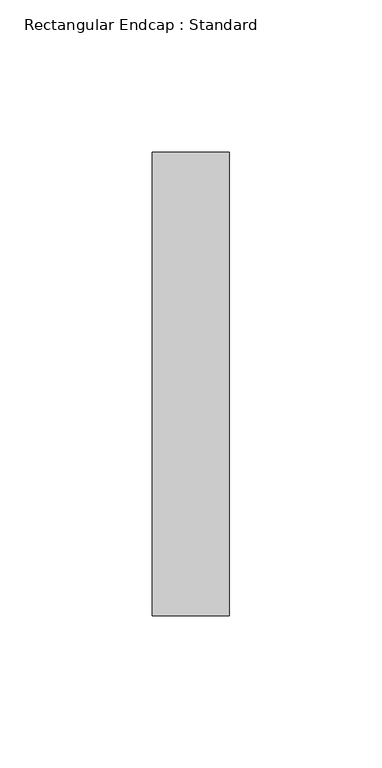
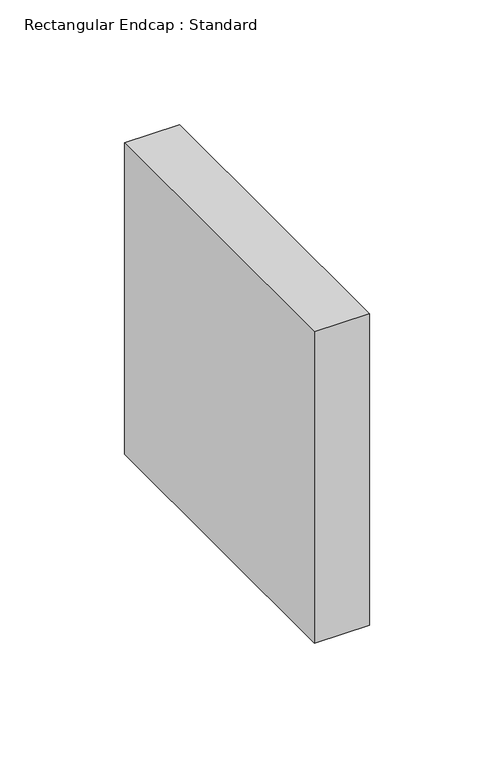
"""IFC4 building model written with IfcOpenShell, lengths in millimetres: duct fitting geometry, Rectangular Endcap : Standard."""

from ifc_helpers import new_model, si_unit, frame, origin, place, context, project, spatial, polyline, outline, extrude, source, transform, mapped, element, save


def rectangular_endcap_standard_4a371c32(model_context):
    return source(origin(), model_context, "Body", "SweptSolid", [
        extrude(outline(polyline([(0.0, -76.2), (0.0, 76.2), (25.4, 76.2), (25.4, -76.2), (0.0, -76.2)])), frame((0.0, 0.0, -76.2), z_axis=(0.0, 0.0, 1.0), x_axis=(1.0, 0.0, 0.0)), (0.0, 0.0, 1.0), 152.4),
    ])


if __name__ == "__main__":
    model = new_model("IFC4")
    model_context = context("Model", 3, world=origin())
    ifc_project = project(units=[si_unit("LENGTHUNIT", "METRE", prefix="MILLI")], contexts=[model_context])
    site = spatial("IfcSite", under=ifc_project)
    building = spatial("IfcBuilding", under=site)
    placement = place(None, origin())
    rectangular_endcap_standard_shape = rectangular_endcap_standard_4a371c32(model_context)
    element("IfcDuctFitting", 1, ObjectType="Rectangular Endcap : Standard", at=placement, inside=building, context=model_context, shape_type="MappedRepresentation", body=[
        mapped(rectangular_endcap_standard_shape, transform((0.0, 0.0, 0.0), x_axis=(1.0, 0.0, 0.0), y_axis=(0.0, 1.0, 0.0), z_axis=(0.0, 0.0, 1.0))),
    ])
    save(model, "model.ifc")
